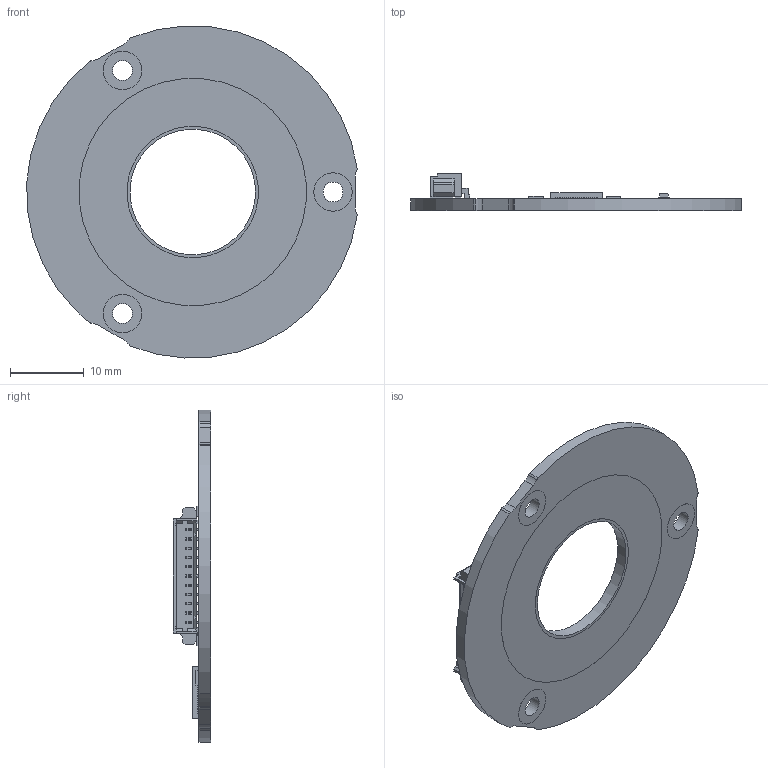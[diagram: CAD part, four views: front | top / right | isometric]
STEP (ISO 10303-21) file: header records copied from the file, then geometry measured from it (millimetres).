
FILE_DESCRIPTION (( 'STEP AP214' ), '1' );
FILE_NAME ('IRS-045_rev01.STEP', '2023-11-03T16:08:54', ( '' ), ( '' ), 'SwSTEP 2.0', 'SolidWorks 2021', '' );
FILE_SCHEMA (( 'AUTOMOTIVE_DESIGN' ));
Length unit declared in the file: millimetre
Products named in the file (1): IRS-045_rev01
Bounding box: 44.74 x 5.08 x 44.94 mm (x, y, z)
Volume: 2307 mm3; surface area: 3625.2 mm2
Topology: 16 solids, 16 shells, 1211 faces, 3268 edges, 2162 vertices
Faces by surface type: plane 627, bspline 430, cylinder 154
Entity records: 56502 total; most frequent: CARTESIAN_POINT 13980, ORIENTED_EDGE 6536, DIRECTION 4912, EDGE_CURVE 3268, LINE 2724, VECTOR 2724, VERTEX_POINT 2162, EDGE_LOOP 1292
